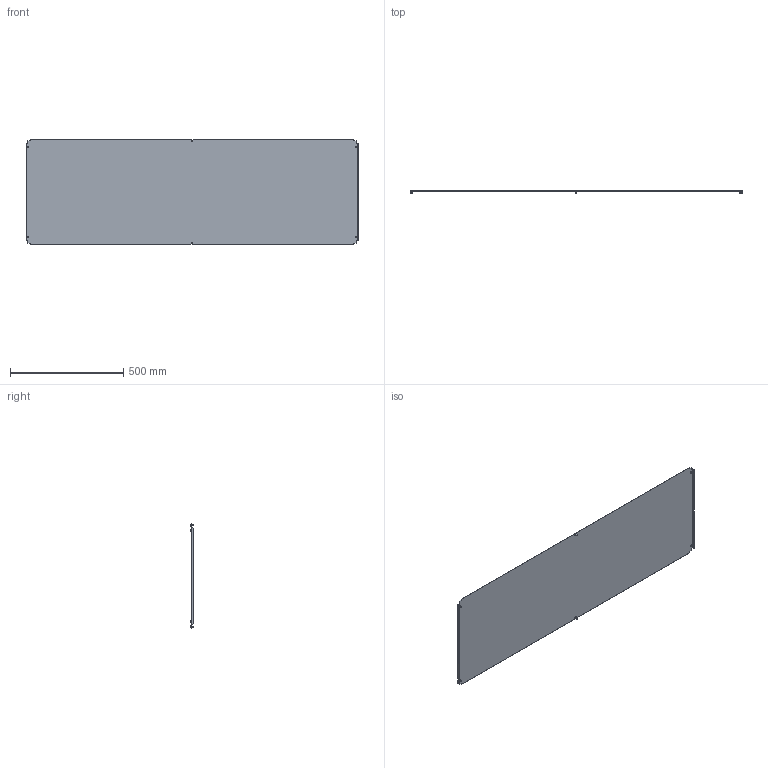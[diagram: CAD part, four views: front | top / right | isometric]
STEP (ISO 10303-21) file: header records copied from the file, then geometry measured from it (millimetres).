
FILE_DESCRIPTION (( 'STEP AP203' ), '1' );
FILE_NAME ('R5N1BP166.STEP', '2025-02-21T14:03:45', ( '' ), ( '' ), 'SwSTEP 2.0', 'SolidWorks 2022', '' );
FILE_SCHEMA (( 'CONFIG_CONTROL_DESIGN' ));
Length unit declared in the file: millimetre
Products named in the file (3): R5N1BP166; RB.1923.00.00.0_-36; M5x12 DIN 7500 C Torx Zinc_stright
Assembly tree (7 placements, depth 2):
  R5N1BP166
    RB.1923.00.00.0_-36
    M5x12 DIN 7500 C Torx Zinc_stright  x6
Bounding box: 1468 x 15.56 x 462 mm (x, y, z)
Volume: 1027936 mm3; surface area: 1375769.4 mm2
Topology: 7 solids, 7 shells, 166 faces, 384 edges, 238 vertices
Faces by surface type: plane 106, cylinder 24, torus 12, cone 12, sphere 6, bspline 6
Full cylindrical faces by diameter (mm): 5 x6, 9.5 x6
Entity records: 3297 total; most frequent: CARTESIAN_POINT 674, ORIENTED_EDGE 448, DIRECTION 444, EDGE_CURVE 224, LINE 180, VECTOR 180, VERTEX_POINT 150, AXIS2_PLACEMENT_3D 132
